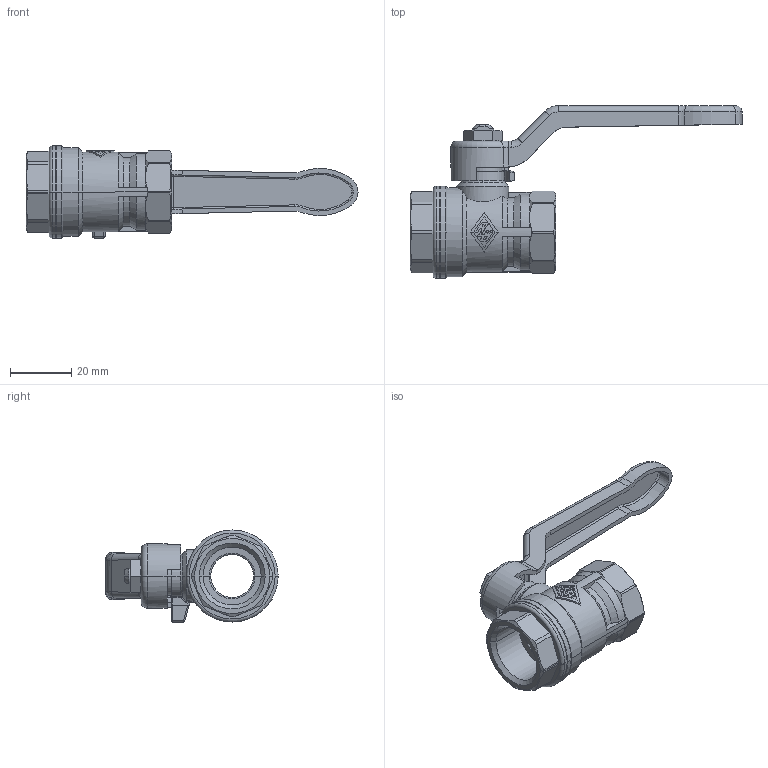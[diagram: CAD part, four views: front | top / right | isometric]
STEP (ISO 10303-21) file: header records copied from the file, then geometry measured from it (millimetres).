
FILE_DESCRIPTION(('OneSpaceDesigner STEP Export'),'2;1');
FILE_NAME('1500040000.stp','2007-10-08T10:46:51',(''),(''),'OneSpace Designer STEP processor for AP214 (Solid Model)','OneSpace Modeling 15.00B 25-Jun-2007 (C) CoCreate Software GmbH','');
FILE_SCHEMA(('AUTOMOTIVE_DESIGN { 1 0 10303 214 1 1 1 1 }'));
Length unit declared in the file: millimetre
Products named in the file (2): 1500040000
Assembly tree (1 placements, depth 2):
  1500040000
    1500040000
Bounding box: 108.25 x 56.2 x 30 mm (x, y, z)
Volume: 22038.2 mm3; surface area: 14304.1 mm2
Topology: 1 solids, 3 shells, 567 faces, 1467 edges, 915 vertices
Faces by surface type: cylinder 206, plane 205, cone 103, torus 30, bspline 17, sphere 4, extrusion 2
Entity records: 24543 total; most frequent: CARTESIAN_POINT 11280, ORIENTED_EDGE 2926, DIRECTION 2030, EDGE_CURVE 1461, VERTEX_POINT 915, AXIS2_PLACEMENT_3D 687, VECTOR 656, LINE 654
